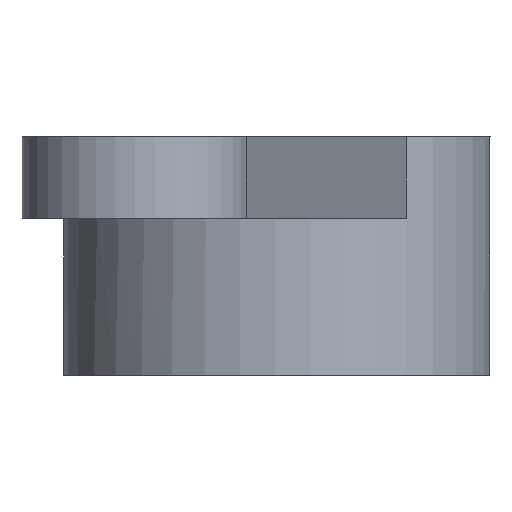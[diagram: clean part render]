
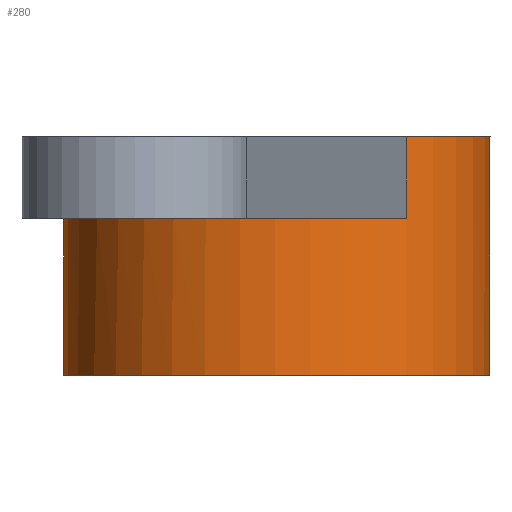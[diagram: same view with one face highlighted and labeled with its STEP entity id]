
A CAD part, left-side view. The second image highlights one B-rep face of the part: STEP entity #280.
In plain terms, the highlighted cylindrical face has radius 3.4 mm (diameter 6.8 mm), a full revolution.
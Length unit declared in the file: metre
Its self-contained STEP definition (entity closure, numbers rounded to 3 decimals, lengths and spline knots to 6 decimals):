
#22=LINE('',#459,#30);
#24=LINE('',#465,#32);
#30=VECTOR('',#368,1.);
#32=VECTOR('',#374,1.);
#45=ORIENTED_EDGE('',*,*,#106,.T.);
#46=ORIENTED_EDGE('',*,*,#107,.F.);
#47=ORIENTED_EDGE('',*,*,#108,.T.);
#48=ORIENTED_EDGE('',*,*,#104,.T.);
#49=ORIENTED_EDGE('',*,*,#109,.F.);
#104=EDGE_CURVE('',#135,#134,#22,.T.);
#106=EDGE_CURVE('',#134,#136,#159,.T.);
#107=EDGE_CURVE('',#137,#136,#24,.T.);
#108=EDGE_CURVE('',#137,#135,#160,.T.);
#109=EDGE_CURVE('',#138,#138,#161,.T.);
#134=VERTEX_POINT('',#458);
#135=VERTEX_POINT('',#460);
#136=VERTEX_POINT('',#464);
#137=VERTEX_POINT('',#466);
#138=VERTEX_POINT('',#469);
#159=CIRCLE('',#316,0.0034);
#160=CIRCLE('',#317,0.0034);
#161=CIRCLE('',#318,0.0034);
#182=EDGE_LOOP('',(#45,#46,#47,#48));
#183=EDGE_LOOP('',(#49));
#226=FACE_BOUND('',#182,.T.);
#227=FACE_BOUND('',#183,.T.);
#268=CYLINDRICAL_SURFACE('',#315,0.0034);
#280=ADVANCED_FACE('',(#226,#227),#268,.T.);
#315=AXIS2_PLACEMENT_3D('',#462,#370,#371);
#316=AXIS2_PLACEMENT_3D('',#463,#372,#373);
#317=AXIS2_PLACEMENT_3D('',#467,#375,#376);
#318=AXIS2_PLACEMENT_3D('',#468,#377,#378);
#368=DIRECTION('',(0.,0.,1.));
#370=DIRECTION('',(0.,0.,1.));
#371=DIRECTION('',(0.985,-0.174,0.));
#372=DIRECTION('',(0.,0.,-1.));
#373=DIRECTION('',(-0.985,0.174,0.));
#374=DIRECTION('',(0.,0.,1.));
#375=DIRECTION('',(0.,0.,-1.));
#376=DIRECTION('',(-0.985,0.174,0.));
#377=DIRECTION('',(0.,0.,-1.));
#378=DIRECTION('',(-0.985,0.174,0.));
#458=CARTESIAN_POINT('',(-0.072012,0.008004,-0.033581));
#459=CARTESIAN_POINT('',(-0.072012,0.008004,-0.034881));
#460=CARTESIAN_POINT('',(-0.072012,0.008004,-0.034881));
#462=CARTESIAN_POINT('',(-0.070177,0.005141,-0.034881));
#463=CARTESIAN_POINT('',(-0.070177,0.005141,-0.033581));
#464=CARTESIAN_POINT('',(-0.07288,0.00308,-0.033581));
#465=CARTESIAN_POINT('',(-0.07288,0.00308,-0.034881));
#466=CARTESIAN_POINT('',(-0.07288,0.00308,-0.034881));
#467=CARTESIAN_POINT('',(-0.070177,0.005141,-0.034881));
#468=CARTESIAN_POINT('',(-0.070177,0.005141,-0.037381));
#469=CARTESIAN_POINT('',(-0.073525,0.005732,-0.037381));
